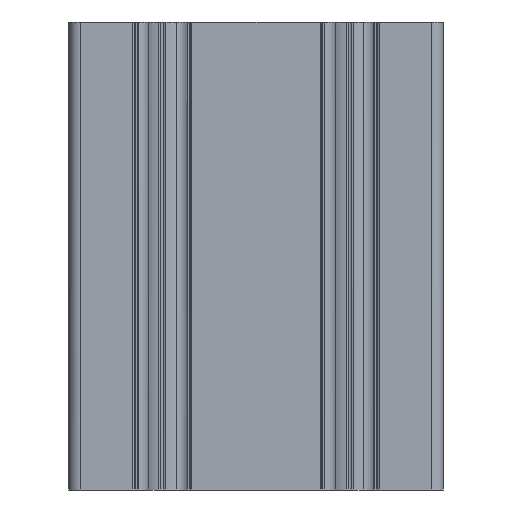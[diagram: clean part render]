
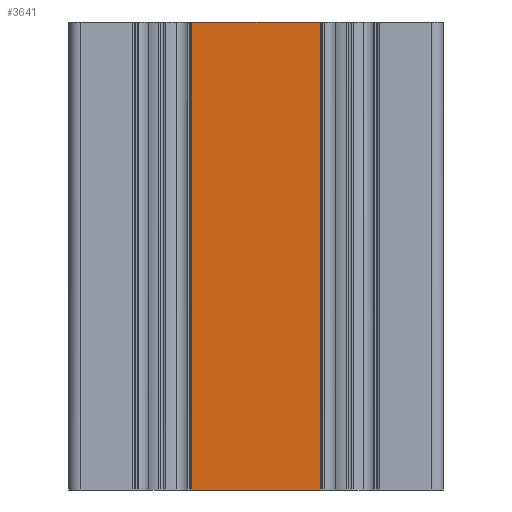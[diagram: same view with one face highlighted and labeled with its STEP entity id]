
A CAD part, front view. The second image highlights one B-rep face of the part: STEP entity #3641.
In plain terms, the highlighted free-form (B-spline) face has degree [1, 1] with [2, 2] control points.
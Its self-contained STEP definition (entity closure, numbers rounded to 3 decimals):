
#1123 = ORIENTED_EDGE ( 'NONE', *, *, #10817, .F. ) ;
#1426 = CARTESIAN_POINT ( 'NONE',  ( 2616.087, 1940.29, 0. ) ) ;
#1561 = CARTESIAN_POINT ( 'NONE',  ( 2588.687, 1940.29, 0. ) ) ;
#1829 = CARTESIAN_POINT ( 'NONE',  ( 2616.087, 1940.29, 0. ) ) ;
#2628 = CARTESIAN_POINT ( 'NONE',  ( 2588.687, 1940.29, 100. ) ) ;
#2807 = CARTESIAN_POINT ( 'NONE',  ( 2616.087, 1940.29, 100. ) ) ;
#3130 = CARTESIAN_POINT ( 'NONE',  ( 2616.087, 1940.29, 100. ) ) ;
#3404 = EDGE_CURVE ( 'NONE', #11130, #11140, #7790, .T. ) ;
#3451 = ORIENTED_EDGE ( 'NONE', *, *, #3603, .T. ) ;
#3603 = EDGE_CURVE ( 'NONE', #4158, #11140, #6117, .T. ) ;
#3641 = ADVANCED_FACE ( 'NONE', ( #8025 ), #14173, .F. ) ;
#3898 = CARTESIAN_POINT ( 'NONE',  ( 2616.087, 1940.29, 0. ) ) ;
#4158 = VERTEX_POINT ( 'NONE', #10551 ) ;
#6035 = CARTESIAN_POINT ( 'NONE',  ( 2588.687, 1940.29, 100. ) ) ;
#6110 = VERTEX_POINT ( 'NONE', #6035 ) ;
#6117 = B_SPLINE_CURVE_WITH_KNOTS ( 'NONE', 1,
 ( #10232, #3898 ),
 .UNSPECIFIED., .F., .F.,
 ( 2, 2 ),
 ( 0., 1. ),
 .UNSPECIFIED. ) ;
#6450 = B_SPLINE_CURVE_WITH_KNOTS ( 'NONE', 1,
 ( #13177, #14461 ),
 .UNSPECIFIED., .F., .F.,
 ( 2, 2 ),
 ( -1., 0. ),
 .UNSPECIFIED. ) ;
#7159 = B_SPLINE_CURVE_WITH_KNOTS ( 'NONE', 1,
 ( #2628, #13585 ),
 .UNSPECIFIED., .F., .F.,
 ( 2, 2 ),
 ( 0., 1. ),
 .UNSPECIFIED. ) ;
#7756 = CARTESIAN_POINT ( 'NONE',  ( 2588.687, 1940.29, 100. ) ) ;
#7790 = B_SPLINE_CURVE_WITH_KNOTS ( 'NONE', 1,
 ( #3130, #1829 ),
 .UNSPECIFIED., .F., .F.,
 ( 2, 2 ),
 ( -1., 0. ),
 .UNSPECIFIED. ) ;
#8025 = FACE_OUTER_BOUND ( 'NONE', #10602, .T. ) ;
#10178 = CARTESIAN_POINT ( 'NONE',  ( 2616.087, 1940.29, 0. ) ) ;
#10232 = CARTESIAN_POINT ( 'NONE',  ( 2588.687, 1940.29, 0. ) ) ;
#10444 = ORIENTED_EDGE ( 'NONE', *, *, #3404, .F. ) ;
#10551 = CARTESIAN_POINT ( 'NONE',  ( 2588.687, 1940.29, 0. ) ) ;
#10602 = EDGE_LOOP ( 'NONE', ( #10444, #1123, #14464, #3451 ) ) ;
#10817 = EDGE_CURVE ( 'NONE', #6110, #11130, #7159, .T. ) ;
#11130 = VERTEX_POINT ( 'NONE', #13685 ) ;
#11140 = VERTEX_POINT ( 'NONE', #1426 ) ;
#11411 = EDGE_CURVE ( 'NONE', #4158, #6110, #6450, .T. ) ;
#13177 = CARTESIAN_POINT ( 'NONE',  ( 2588.687, 1940.29, 0. ) ) ;
#13585 = CARTESIAN_POINT ( 'NONE',  ( 2616.087, 1940.29, 100. ) ) ;
#13685 = CARTESIAN_POINT ( 'NONE',  ( 2616.087, 1940.29, 100. ) ) ;
#14173 = B_SPLINE_SURFACE_WITH_KNOTS ( 'NONE', 1, 1, ( 
 ( #1561, #10178 ),
 ( #7756, #2807 ) ),
 .UNSPECIFIED., .F., .F., .F.,
 ( 2, 2 ),
 ( 2, 2 ),
 ( 0., 1. ),
 ( 0., 1. ),
 .UNSPECIFIED. ) ;
#14461 = CARTESIAN_POINT ( 'NONE',  ( 2588.687, 1940.29, 100. ) ) ;
#14464 = ORIENTED_EDGE ( 'NONE', *, *, #11411, .F. ) ;
